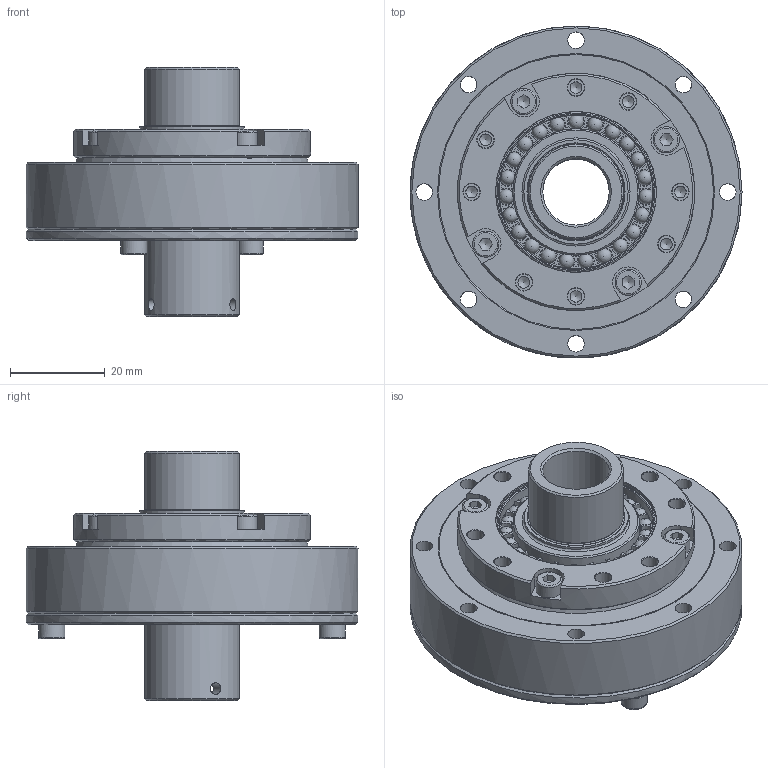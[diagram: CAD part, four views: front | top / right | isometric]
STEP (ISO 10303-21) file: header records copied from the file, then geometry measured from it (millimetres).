
FILE_DESCRIPTION(/* description */ (''),/* implementation_level */ '2;1');
FILE_NAME(/* name */ '\\Hiwin.tw\dfs\TB00F\研發課二組\\X2\6A5F5BC67D1A\X0\\97.同仁共享區 (機密級)\H11\\X2\6B236021\X0\\2023專案追蹤\2.型錄\\X2\6A21578B\X0\\官網3D檔(NEW)\DGH-PH\DGH-14-XX-PH.stp',/* time_stamp */ '2024-08-27T10:51:30+08:00',/* author */ ('hienya'),/* organization */ (''),/* preprocessor_version */ 'ST-DEVELOPER v15.2',/* originating_system */ 'Autodesk Inventor 2014',/* authorisation */ '');
FILE_SCHEMA (('AUTOMOTIVE_DESIGN { 1 0 10303 214 3 1 1 }'));
Length unit declared in the file: centimetre
Products named in the file (1): DGH-14-XX-PH
Bounding box: 70 x 70 x 52.5 mm (x, y, z)
Volume: 64248.6 mm3; surface area: 23202.9 mm2
Topology: 1 solids, 5 shells, 448 faces, 1092 edges, 683 vertices
Faces by surface type: cylinder 159, plane 137, cone 71, torus 58, sphere 23
Full cylindrical faces by diameter (mm): 2.459 x11, 3.5 x24, 4.036 x2, 4.08 x2, 5.5 x6, 14 x2, 14.5 x1, 20 x2, 22 x2, 26.67 x1, 32.37 x1, 33.89 x2, 48 x1, 50 x1, 58 x1, 70 x2
Entity records: 11864 total; most frequent: DIRECTION 2242, CARTESIAN_POINT 2147, ORIENTED_EDGE 1736, AXIS2_PLACEMENT_3D 1023, EDGE_CURVE 822, EDGE_LOOP 672, VERTEX_POINT 576, CIRCLE 574
